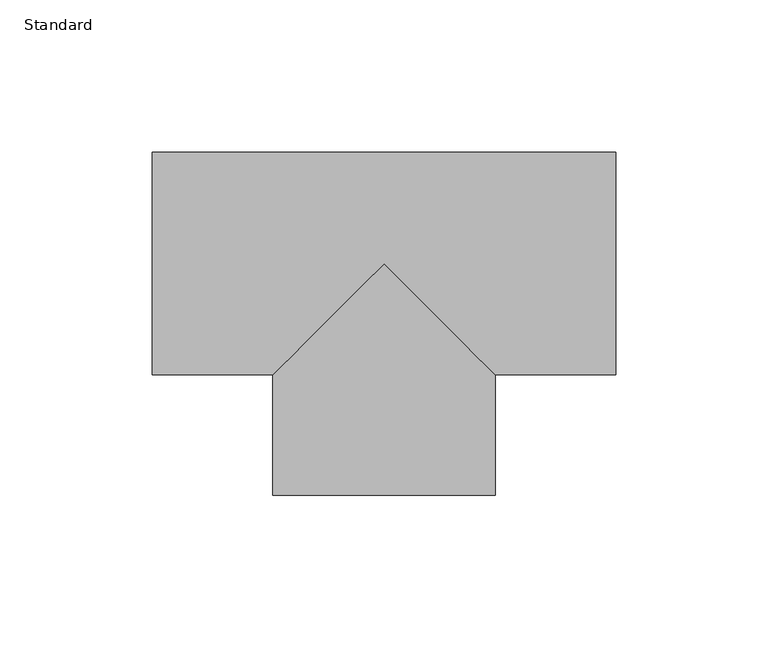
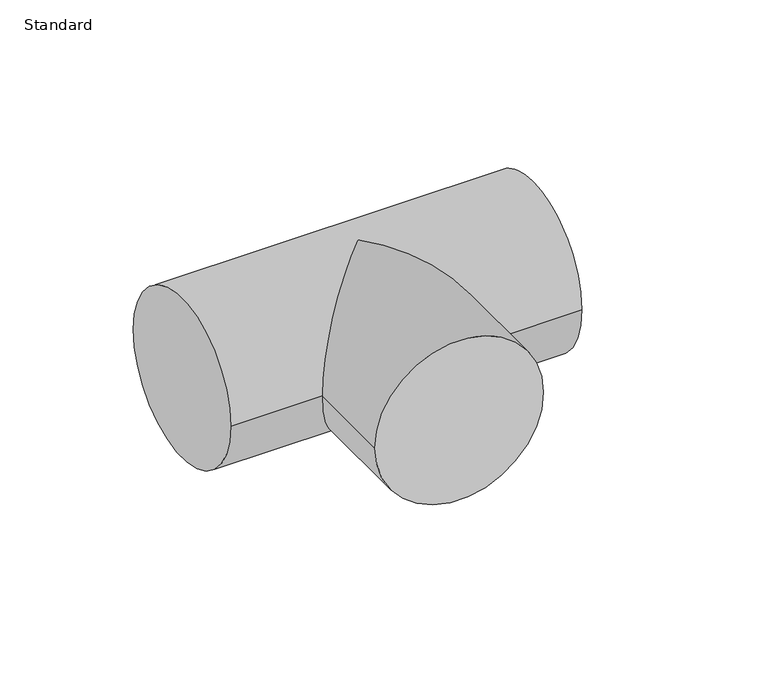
"""IFC4 building model written with IfcOpenShell, lengths in millimetres: pipe fitting geometry, Té - Générique : Standard."""

from ifc_helpers import new_model, si_unit, frame, origin, place, context, project, spatial, circle_curve, ellipse_curve, source, transform, mapped, element, save
from ifc_brep_helpers import plane_surface, cylinder_surface, advanced_brep


def standard_4e50bc8c(model_context):
    return source(origin(), model_context, "Body", "AdvancedBrep", [
        advanced_brep(
        [(-76.0, -36.5, 0.0), (-76.0, 36.5, 0.0), (76.0, -36.5, 0.0), (76.0, 36.5, 0.0), (-36.5, -36.5, 0.0), (0.0, 0.0, 36.5), (36.5, -36.5, 0.0), (0.0, 0.0, -36.5), (-36.5, -76.0, 0.0), (36.5, -76.0, 0.0)],
        [
            (0, 1, circle_curve(frame((-76.0, 0.0, 0.0), z_axis=(-1.0, 0.0, 0.0), x_axis=(0.0, 1.0, 0.0)), 36.5)),
            (1, 0, circle_curve(frame((-76.0, 0.0, 0.0), z_axis=(-1.0, 0.0, 0.0), x_axis=(0.0, 1.0, 0.0)), 36.5)),
            (2, 3, circle_curve(frame((76.0, 0.0, 0.0), z_axis=(1.0, 0.0, 0.0), x_axis=(0.0, 1.0, 0.0)), 36.5)),
            (3, 2, circle_curve(frame((76.0, 0.0, 0.0), z_axis=(1.0, 0.0, 0.0), x_axis=(0.0, 1.0, 0.0)), 36.5)),
            (0, 4),
            (4, 5, ellipse_curve(frame((0.0, 0.0, 0.0), z_axis=(-0.707106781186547, 0.7071067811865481, 0.0), x_axis=(-0.707106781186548, -0.707106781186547, 0.0)), 51.618795, 36.5)),
            (5, 6, ellipse_curve(frame((0.0, 0.0, 0.0), z_axis=(0.707106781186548, 0.7071067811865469, 0.0), x_axis=(-0.707106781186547, 0.707106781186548, 0.0)), 51.618795, 36.5)),
            (6, 2),
            (3, 1),
            (6, 7, ellipse_curve(frame((0.0, 0.0, 0.0), z_axis=(0.707106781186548, 0.7071067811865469, 0.0), x_axis=(-0.707106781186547, 0.707106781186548, 0.0)), 51.618795, 36.5)),
            (7, 4, ellipse_curve(frame((0.0, 0.0, 0.0), z_axis=(-0.707106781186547, 0.7071067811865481, 0.0), x_axis=(-0.707106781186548, -0.707106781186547, 0.0)), 51.618795, 36.5)),
            (8, 9, circle_curve(frame((0.0, -76.0, 0.0), z_axis=(0.0, -1.0, 0.0), x_axis=(1.0, 0.0, 0.0)), 36.5)),
            (9, 8, circle_curve(frame((0.0, -76.0, 0.0), z_axis=(0.0, -1.0, 0.0), x_axis=(1.0, 0.0, 0.0)), 36.5)),
            (9, 6),
            (4, 8),
        ],
        [
            plane_surface(frame((-76.0, 0.0, 0.0), z_axis=(-1.0, 0.0, 0.0), x_axis=(0.0, 0.0, 1.0))),
            plane_surface(frame((76.0, 0.0, 0.0), z_axis=(1.0, 0.0, 0.0), x_axis=(0.0, 0.0, 1.0))),
            cylinder_surface(frame((-76.0, 0.0, 0.0), z_axis=(-1.0, 0.0, 0.0), x_axis=(0.0, 1.0, 0.0)), 36.5),
            plane_surface(frame((0.0, -76.0, 0.0), z_axis=(0.0, -1.0, 0.0), x_axis=(0.0, 0.0, 1.0))),
            cylinder_surface(frame((0.0, 0.0, 0.0), z_axis=(0.0, 1.0, 0.0), x_axis=(1.0, 0.0, 0.0)), 36.5),
        ],
        [
            (0, [[1, 2]]),
            (1, [[3, 4]]),
            (2, [[-1, 5, 6, 7, 8, -4, 9]]),
            (2, [[-2, -9, -3, -8, 10, 11, -5]]),
            (3, [[12, 13]]),
            (4, [[-13, 14, -7, -6, 15]]),
            (4, [[-12, -15, -11, -10, -14]]),
        ],
    ),
    ])


if __name__ == "__main__":
    model = new_model("IFC4")
    model_context = context("Model", 3, world=origin())
    ifc_project = project(units=[si_unit("LENGTHUNIT", "METRE", prefix="MILLI")], contexts=[model_context])
    site = spatial("IfcSite", under=ifc_project)
    building = spatial("IfcBuilding", under=site)
    placement = place(None, origin())
    standard_shape = standard_4e50bc8c(model_context)
    element("IfcPipeFitting", 1, ObjectType="Té - Générique : Standard", at=placement, inside=building, context=model_context, shape_type="MappedRepresentation", body=[
        mapped(standard_shape, transform((0.0, 0.0, 0.0), x_axis=(1.0, 0.0, 0.0), y_axis=(0.0, 1.0, 0.0), z_axis=(0.0, 0.0, 1.0))),
    ])
    save(model, "model.ifc")
